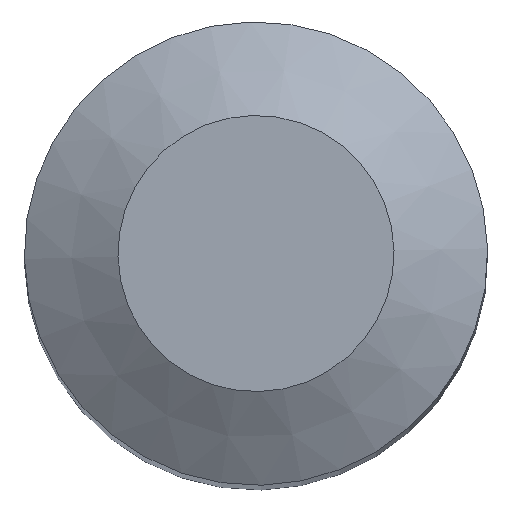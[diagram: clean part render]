
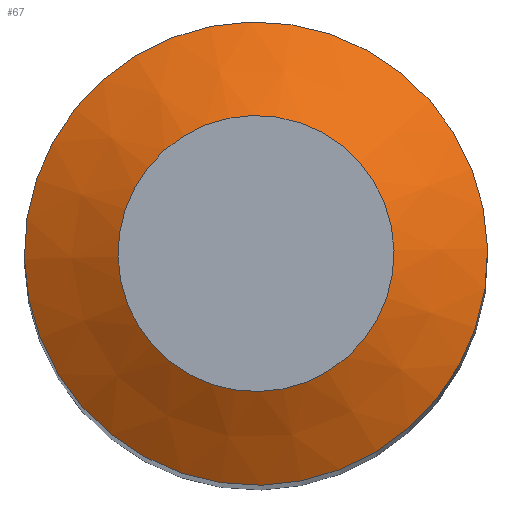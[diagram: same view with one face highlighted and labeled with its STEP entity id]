
A CAD part, top view. The second image highlights one B-rep face of the part: STEP entity #67.
In plain terms, the highlighted conical face has half-angle 60 degrees and reference radius 3 mm.
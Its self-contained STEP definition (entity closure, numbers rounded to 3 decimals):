
#48=CONICAL_SURFACE('',#178,3.,60.);
#59=FACE_BOUND('',#86,.T.);
#60=FACE_BOUND('',#87,.T.);
#67=ADVANCED_FACE('',(#59,#60),#48,.T.);
#86=EDGE_LOOP('',(#100));
#87=EDGE_LOOP('',(#101));
#100=ORIENTED_EDGE('',*,*,#118,.F.);
#101=ORIENTED_EDGE('',*,*,#117,.T.);
#110=VERTEX_POINT('',#246);
#111=VERTEX_POINT('',#249);
#117=EDGE_CURVE('',#110,#110,#124,.T.);
#118=EDGE_CURVE('',#111,#111,#125,.T.);
#124=CIRCLE('',#175,3.);
#125=CIRCLE('',#177,1.788);
#175=AXIS2_PLACEMENT_3D('',#245,#211,#212);
#177=AXIS2_PLACEMENT_3D('',#248,#215,#216);
#178=AXIS2_PLACEMENT_3D('',#250,#217,#218);
#211=DIRECTION('',(0.,0.,1.));
#212=DIRECTION('',(-0.52,0.854,0.));
#215=DIRECTION('',(0.,0.,1.));
#216=DIRECTION('',(-0.52,0.854,0.));
#217=DIRECTION('',(0.,0.,-1.));
#218=DIRECTION('',(0.52,-0.854,0.));
#245=CARTESIAN_POINT('',(0.,0.,-0.7));
#246=CARTESIAN_POINT('',(-1.559,2.563,-0.7));
#248=CARTESIAN_POINT('',(0.,0.,0.));
#249=CARTESIAN_POINT('',(-0.929,1.527,0.));
#250=CARTESIAN_POINT('',(0.,0.,-0.7));
